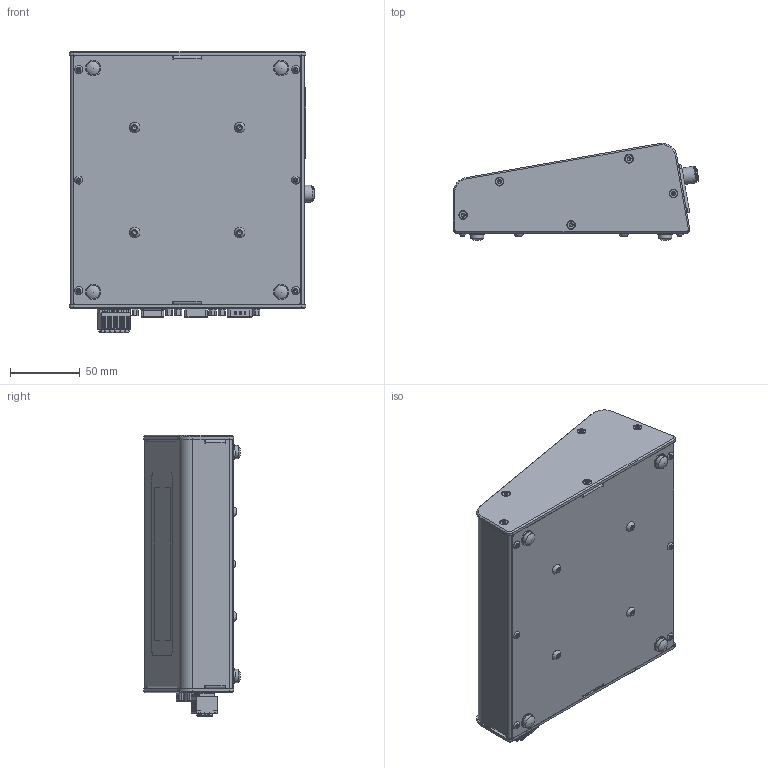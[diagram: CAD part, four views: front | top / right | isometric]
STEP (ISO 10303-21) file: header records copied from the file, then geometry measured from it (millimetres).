
FILE_DESCRIPTION (( 'STEP AP214' ), '1' );
FILE_NAME ('Unità KDU_NT Rev1.STEP', '2024-04-04T14:38:34', ( '' ), ( '' ), 'SwSTEP 2.0', 'SolidWorks 2022', '' );
FILE_SCHEMA (( 'AUTOMOTIVE_DESIGN' ));
Length unit declared in the file: millimetre
Products named in the file (1): Unità KDU_NT Rev1
Bounding box: 175.25 x 69.31 x 201.04 mm (x, y, z)
Surface area: 206266.7 mm2 (no closed solid volume)
Topology: 0 solids, 226 shells, 2305 faces, 9801 edges, 7515 vertices
Faces by surface type: plane 1208, cylinder 816, bspline 172, cone 104, torus 5
Full cylindrical faces by diameter (mm): 0.7 x12, 0.9 x2, 1 x9, 1.2 x9, 1.3 x8, 2 x1, 2.2 x2, 2.5 x10, 2.8 x7, 3 x7, 3.1 x8, 3.121 x4, 3.5 x3, 5.5 x10, 6 x2, 7 x2, 8.2 x1, 8.5 x1, 9.5 x4, 9.65 x1, 10.5 x1, 11 x4, 12 x1, 21.58 x1
Entity records: 139480 total; most frequent: CARTESIAN_POINT 38075, DIRECTION 15141, ORIENTED_EDGE 13420, EDGE_CURVE 9457, VERTEX_POINT 7421, LINE 5749, VECTOR 5749, AXIS2_PLACEMENT_3D 4696
